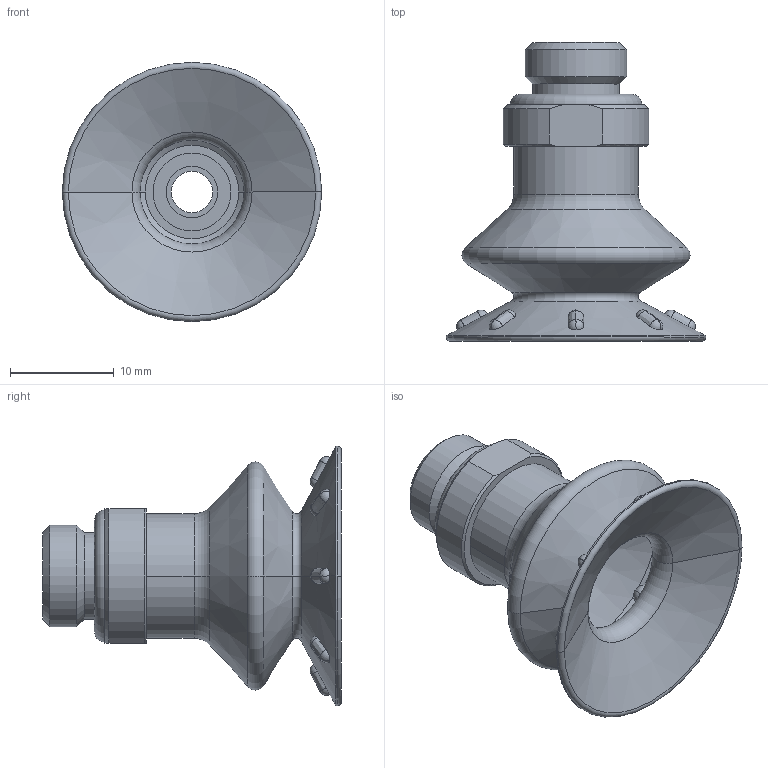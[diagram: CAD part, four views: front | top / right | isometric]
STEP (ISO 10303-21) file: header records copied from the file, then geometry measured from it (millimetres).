
FILE_DESCRIPTION (( 'STEP AP214' ), '1' );
FILE_NAME ('SB25P-3055-G18MS.STEP', '2025-11-04T15:19:32', ( '' ), ( '' ), 'SwSTEP 2.0', 'SolidWorks 2025', '' );
FILE_SCHEMA (( 'AUTOMOTIVE_DESIGN' ));
Length unit declared in the file: inch
Products named in the file (3): SB25P-3055; SB25P-3055-G18MS; 401.011
Assembly tree (2 placements, depth 2):
  SB25P-3055-G18MS
    401.011
    SB25P-3055
Bounding box: 25 x 28.81 x 25 mm (x, y, z)
Volume: 2767.7 mm3; surface area: 4041.6 mm2
Topology: 3 solids, 3 shells, 129 faces, 289 edges, 166 vertices
Faces by surface type: sphere 48, cylinder 19, cone 19, bspline 16, torus 15, plane 12
Full cylindrical faces by diameter (mm): 4 x1, 5 x1, 6 x1, 8.4 x1, 8.5 x1, 9.8 x1, 12.7 x1
Entity records: 5983 total; most frequent: CARTESIAN_POINT 3476, ORIENTED_EDGE 498, DIRECTION 446, EDGE_CURVE 249, AXIS2_PLACEMENT_3D 207, EDGE_LOOP 162, VERTEX_POINT 155, FACE_OUTER_BOUND 135
